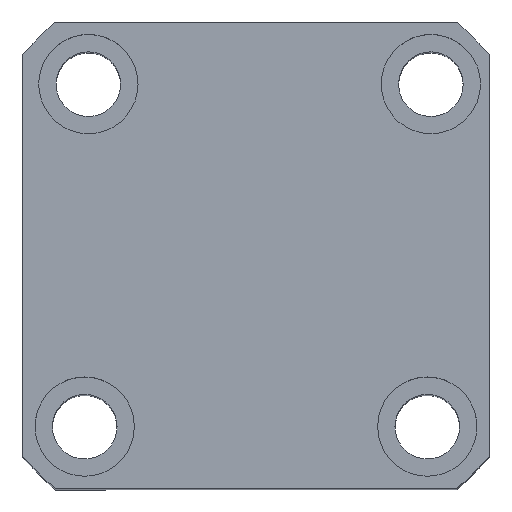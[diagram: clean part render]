
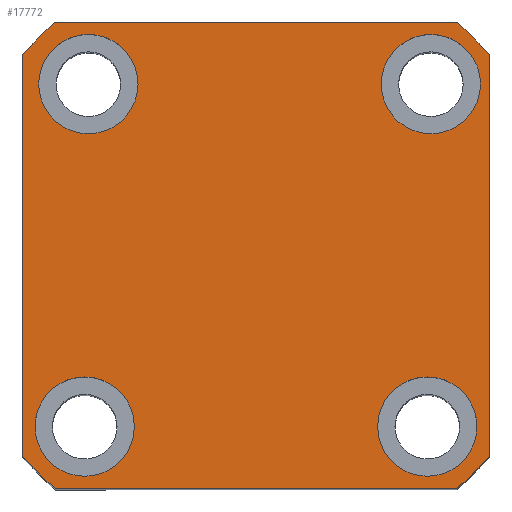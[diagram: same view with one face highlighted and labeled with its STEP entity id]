
A CAD part, top view. The second image highlights one B-rep face of the part: STEP entity #17772.
In plain terms, the highlighted planar face has unit normal (0, 0, 1) as drawn and (0, 0, -1) by its records, which use the part's own axes.
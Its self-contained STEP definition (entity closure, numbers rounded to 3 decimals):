
#20 = EDGE_LOOP ( 'NONE', ( #441, #3209 ) ) ;
#28 = ORIENTED_EDGE ( 'NONE', *, *, #8933, .F. ) ;
#134 = VERTEX_POINT ( 'NONE', #795 ) ;
#277 = EDGE_CURVE ( 'NONE', #14818, #12026, #17047, .T. ) ;
#441 = ORIENTED_EDGE ( 'NONE', *, *, #7856, .F. ) ;
#634 = EDGE_CURVE ( 'NONE', #134, #4272, #10807, .T. ) ;
#707 = DIRECTION ( 'NONE',  ( 1., 0., 0. ) ) ;
#722 = DIRECTION ( 'NONE',  ( 0., 0., -1. ) ) ;
#740 = AXIS2_PLACEMENT_3D ( 'NONE', #17199, #8945, #707 ) ;
#795 = CARTESIAN_POINT ( 'NONE',  ( -44.5, 34.5, 0. ) ) ;
#1028 = VECTOR ( 'NONE', #10838, 1000. ) ;
#1044 = DIRECTION ( 'NONE',  ( -1., 0., 0. ) ) ;
#1046 = VECTOR ( 'NONE', #10938, 1000. ) ;
#1080 = AXIS2_PLACEMENT_3D ( 'NONE', #14562, #6214, #15917 ) ;
#1132 = CARTESIAN_POINT ( 'NONE',  ( -34.5, 34.5, 0. ) ) ;
#1208 = CARTESIAN_POINT ( 'NONE',  ( 40.435, -47., 0. ) ) ;
#1283 = DIRECTION ( 'NONE',  ( 0., 0., -1. ) ) ;
#1817 = CARTESIAN_POINT ( 'NONE',  ( -40.435, -47., 0. ) ) ;
#1845 = VERTEX_POINT ( 'NONE', #7888 ) ;
#2205 = VERTEX_POINT ( 'NONE', #11908 ) ;
#2269 = DIRECTION ( 'NONE',  ( 0., 0., 1. ) ) ;
#2323 = VECTOR ( 'NONE', #13213, 1000. ) ;
#2577 = CARTESIAN_POINT ( 'NONE',  ( 0., 0., 0. ) ) ;
#2669 = DIRECTION ( 'NONE',  ( 0., -1., 0. ) ) ;
#2684 = FACE_BOUND ( 'NONE', #6825, .T. ) ;
#2724 = CARTESIAN_POINT ( 'NONE',  ( -47., -40.435, 0. ) ) ;
#3022 = CARTESIAN_POINT ( 'NONE',  ( 34.5, 34.5, 0. ) ) ;
#3176 = CIRCLE ( 'NONE', #5503, 10. ) ;
#3209 = ORIENTED_EDGE ( 'NONE', *, *, #5967, .F. ) ;
#3216 = DIRECTION ( 'NONE',  ( -1., 0., 0. ) ) ;
#3264 = DIRECTION ( 'NONE',  ( 0., 0., -1. ) ) ;
#3354 = EDGE_CURVE ( 'NONE', #10613, #17080, #6398, .T. ) ;
#3458 = CARTESIAN_POINT ( 'NONE',  ( 34.5, 34.5, 0. ) ) ;
#3512 = CARTESIAN_POINT ( 'NONE',  ( -47., 47., 0. ) ) ;
#3819 = EDGE_CURVE ( 'NONE', #13245, #11357, #12087, .T. ) ;
#3943 = DIRECTION ( 'NONE',  ( 1., 0., 0. ) ) ;
#4272 = VERTEX_POINT ( 'NONE', #17055 ) ;
#4461 = ORIENTED_EDGE ( 'NONE', *, *, #634, .F. ) ;
#4462 = DIRECTION ( 'NONE',  ( 0., 0., 1. ) ) ;
#4565 = CIRCLE ( 'NONE', #1080, 10. ) ;
#4614 = CIRCLE ( 'NONE', #13299, 62. ) ;
#4729 = VERTEX_POINT ( 'NONE', #5951 ) ;
#4817 = DIRECTION ( 'NONE',  ( -1., 0., 0. ) ) ;
#4848 = EDGE_CURVE ( 'NONE', #4272, #134, #16985, .T. ) ;
#4849 = EDGE_CURVE ( 'NONE', #12026, #14818, #3176, .T. ) ;
#4856 = CIRCLE ( 'NONE', #15583, 62. ) ;
#4908 = EDGE_CURVE ( 'NONE', #17080, #1845, #5947, .T. ) ;
#5071 = AXIS2_PLACEMENT_3D ( 'NONE', #17548, #9305, #1044 ) ;
#5072 = PLANE ( 'NONE',  #10738 ) ;
#5137 = EDGE_LOOP ( 'NONE', ( #12966, #5311 ) ) ;
#5188 = CARTESIAN_POINT ( 'NONE',  ( 47., 40.435, 0. ) ) ;
#5198 = VECTOR ( 'NONE', #2669, 1000. ) ;
#5307 = CARTESIAN_POINT ( 'NONE',  ( 0., 0., 0. ) ) ;
#5311 = ORIENTED_EDGE ( 'NONE', *, *, #8335, .F. ) ;
#5503 = AXIS2_PLACEMENT_3D ( 'NONE', #3458, #13150, #4817 ) ;
#5593 = CARTESIAN_POINT ( 'NONE',  ( -33.77, -34.5, 0. ) ) ;
#5889 = FACE_OUTER_BOUND ( 'NONE', #15398, .T. ) ;
#5947 = LINE ( 'NONE', #3512, #2323 ) ;
#5951 = CARTESIAN_POINT ( 'NONE',  ( 47., -40.435, 0. ) ) ;
#5967 = EDGE_CURVE ( 'NONE', #8830, #9164, #9148, .T. ) ;
#6214 = DIRECTION ( 'NONE',  ( 0., 0., -1. ) ) ;
#6353 = CIRCLE ( 'NONE', #11551, 10. ) ;
#6391 = ORIENTED_EDGE ( 'NONE', *, *, #4849, .F. ) ;
#6398 = CIRCLE ( 'NONE', #740, 62. ) ;
#6455 = AXIS2_PLACEMENT_3D ( 'NONE', #8958, #722, #10356 ) ;
#6702 = DIRECTION ( 'NONE',  ( 1., 0., 0. ) ) ;
#6708 = VERTEX_POINT ( 'NONE', #7640 ) ;
#6825 = EDGE_LOOP ( 'NONE', ( #4461, #7272 ) ) ;
#6850 = DIRECTION ( 'NONE',  ( -1., 0., 0. ) ) ;
#6995 = DIRECTION ( 'NONE',  ( -1., 0., 0. ) ) ;
#7272 = ORIENTED_EDGE ( 'NONE', *, *, #4848, .F. ) ;
#7640 = CARTESIAN_POINT ( 'NONE',  ( -47., 40.435, 0. ) ) ;
#7710 = CARTESIAN_POINT ( 'NONE',  ( 35.23, -34.5, 0. ) ) ;
#7735 = ORIENTED_EDGE ( 'NONE', *, *, #12880, .F. ) ;
#7856 = EDGE_CURVE ( 'NONE', #9164, #8830, #10880, .T. ) ;
#7888 = CARTESIAN_POINT ( 'NONE',  ( -40.435, 47., 0. ) ) ;
#7946 = ORIENTED_EDGE ( 'NONE', *, *, #16195, .F. ) ;
#8335 = EDGE_CURVE ( 'NONE', #17424, #2205, #4565, .T. ) ;
#8467 = LINE ( 'NONE', #10969, #5198 ) ;
#8554 = EDGE_CURVE ( 'NONE', #11357, #4729, #13478, .T. ) ;
#8830 = VERTEX_POINT ( 'NONE', #16364 ) ;
#8933 = EDGE_CURVE ( 'NONE', #6708, #9072, #8467, .T. ) ;
#8945 = DIRECTION ( 'NONE',  ( 0., 0., 1. ) ) ;
#8958 = CARTESIAN_POINT ( 'NONE',  ( -34.5, 34.5, 0. ) ) ;
#9072 = VERTEX_POINT ( 'NONE', #2724 ) ;
#9120 = DIRECTION ( 'NONE',  ( -1., 0., 0. ) ) ;
#9148 = CIRCLE ( 'NONE', #16309, 10. ) ;
#9164 = VERTEX_POINT ( 'NONE', #16660 ) ;
#9305 = DIRECTION ( 'NONE',  ( 0., 0., -1. ) ) ;
#9530 = CARTESIAN_POINT ( 'NONE',  ( -47., -47., 0. ) ) ;
#9600 = FACE_BOUND ( 'NONE', #17308, .T. ) ;
#9629 = CARTESIAN_POINT ( 'NONE',  ( 24.5, 34.5, 0. ) ) ;
#10356 = DIRECTION ( 'NONE',  ( -1., 0., 0. ) ) ;
#10542 = CARTESIAN_POINT ( 'NONE',  ( 0., 0., 0. ) ) ;
#10567 = ORIENTED_EDGE ( 'NONE', *, *, #8554, .F. ) ;
#10613 = VERTEX_POINT ( 'NONE', #5188 ) ;
#10738 = AXIS2_PLACEMENT_3D ( 'NONE', #5307, #15033, #6702 ) ;
#10807 = CIRCLE ( 'NONE', #12035, 10. ) ;
#10838 = DIRECTION ( 'NONE',  ( 0., 1., 0. ) ) ;
#10880 = CIRCLE ( 'NONE', #5071, 10. ) ;
#10938 = DIRECTION ( 'NONE',  ( 1., 0., 0. ) ) ;
#10969 = CARTESIAN_POINT ( 'NONE',  ( -47., 47., 0. ) ) ;
#11103 = CARTESIAN_POINT ( 'NONE',  ( 40.435, 47., 0. ) ) ;
#11357 = VERTEX_POINT ( 'NONE', #1208 ) ;
#11551 = AXIS2_PLACEMENT_3D ( 'NONE', #5593, #15315, #6995 ) ;
#11908 = CARTESIAN_POINT ( 'NONE',  ( -43.77, -34.5, 0. ) ) ;
#11960 = DIRECTION ( 'NONE',  ( 1., 0., 0. ) ) ;
#12026 = VERTEX_POINT ( 'NONE', #9629 ) ;
#12035 = AXIS2_PLACEMENT_3D ( 'NONE', #1132, #1283, #6850 ) ;
#12058 = LINE ( 'NONE', #16178, #1028 ) ;
#12081 = ORIENTED_EDGE ( 'NONE', *, *, #3354, .F. ) ;
#12087 = LINE ( 'NONE', #9530, #1046 ) ;
#12199 = CARTESIAN_POINT ( 'NONE',  ( 44.5, 34.5, 0. ) ) ;
#12276 = DIRECTION ( 'NONE',  ( 0., 0., 1. ) ) ;
#12763 = ORIENTED_EDGE ( 'NONE', *, *, #3819, .F. ) ;
#12803 = CARTESIAN_POINT ( 'NONE',  ( 0., 0., 0. ) ) ;
#12880 = EDGE_CURVE ( 'NONE', #4729, #10613, #12058, .T. ) ;
#12947 = ORIENTED_EDGE ( 'NONE', *, *, #277, .F. ) ;
#12966 = ORIENTED_EDGE ( 'NONE', *, *, #14288, .F. ) ;
#12973 = ORIENTED_EDGE ( 'NONE', *, *, #13788, .F. ) ;
#13150 = DIRECTION ( 'NONE',  ( 0., 0., -1. ) ) ;
#13213 = DIRECTION ( 'NONE',  ( -1., 0., 0. ) ) ;
#13245 = VERTEX_POINT ( 'NONE', #1817 ) ;
#13299 = AXIS2_PLACEMENT_3D ( 'NONE', #12803, #4462, #14197 ) ;
#13304 = AXIS2_PLACEMENT_3D ( 'NONE', #3022, #3264, #3216 ) ;
#13306 = FACE_BOUND ( 'NONE', #5137, .T. ) ;
#13478 = CIRCLE ( 'NONE', #16209, 62. ) ;
#13788 = EDGE_CURVE ( 'NONE', #9072, #13245, #4856, .T. ) ;
#14197 = DIRECTION ( 'NONE',  ( 1., 0., 0. ) ) ;
#14288 = EDGE_CURVE ( 'NONE', #2205, #17424, #6353, .T. ) ;
#14526 = CARTESIAN_POINT ( 'NONE',  ( -23.77, -34.5, 0. ) ) ;
#14562 = CARTESIAN_POINT ( 'NONE',  ( -33.77, -34.5, 0. ) ) ;
#14818 = VERTEX_POINT ( 'NONE', #12199 ) ;
#15033 = DIRECTION ( 'NONE',  ( 0., 0., 1. ) ) ;
#15315 = DIRECTION ( 'NONE',  ( 0., 0., -1. ) ) ;
#15398 = EDGE_LOOP ( 'NONE', ( #12081, #7735, #10567, #12763, #12973, #28, #7946, #17453 ) ) ;
#15583 = AXIS2_PLACEMENT_3D ( 'NONE', #2577, #12276, #3943 ) ;
#15917 = DIRECTION ( 'NONE',  ( -1., 0., 0. ) ) ;
#16178 = CARTESIAN_POINT ( 'NONE',  ( 47., 47., 0. ) ) ;
#16195 = EDGE_CURVE ( 'NONE', #1845, #6708, #4614, .T. ) ;
#16209 = AXIS2_PLACEMENT_3D ( 'NONE', #10542, #2269, #11960 ) ;
#16309 = AXIS2_PLACEMENT_3D ( 'NONE', #7710, #17372, #9120 ) ;
#16364 = CARTESIAN_POINT ( 'NONE',  ( 45.23, -34.5, 0. ) ) ;
#16660 = CARTESIAN_POINT ( 'NONE',  ( 25.23, -34.5, 0. ) ) ;
#16985 = CIRCLE ( 'NONE', #6455, 10. ) ;
#17047 = CIRCLE ( 'NONE', #13304, 10. ) ;
#17055 = CARTESIAN_POINT ( 'NONE',  ( -24.5, 34.5, 0. ) ) ;
#17080 = VERTEX_POINT ( 'NONE', #11103 ) ;
#17199 = CARTESIAN_POINT ( 'NONE',  ( 0., 0., 0. ) ) ;
#17308 = EDGE_LOOP ( 'NONE', ( #6391, #12947 ) ) ;
#17372 = DIRECTION ( 'NONE',  ( 0., 0., -1. ) ) ;
#17424 = VERTEX_POINT ( 'NONE', #14526 ) ;
#17453 = ORIENTED_EDGE ( 'NONE', *, *, #4908, .F. ) ;
#17548 = CARTESIAN_POINT ( 'NONE',  ( 35.23, -34.5, 0. ) ) ;
#17772 = ADVANCED_FACE ( 'NONE', ( #17780, #13306, #2684, #9600, #5889 ), #5072, .F. ) ;
#17780 = FACE_BOUND ( 'NONE', #20, .T. ) ;
